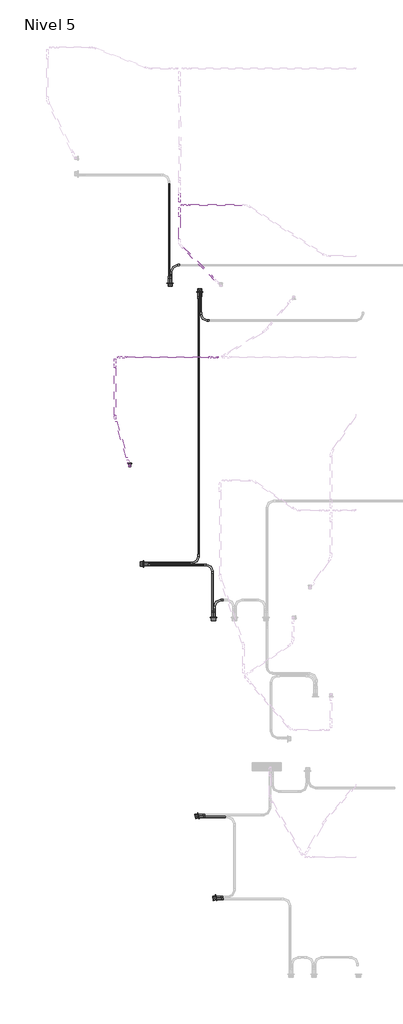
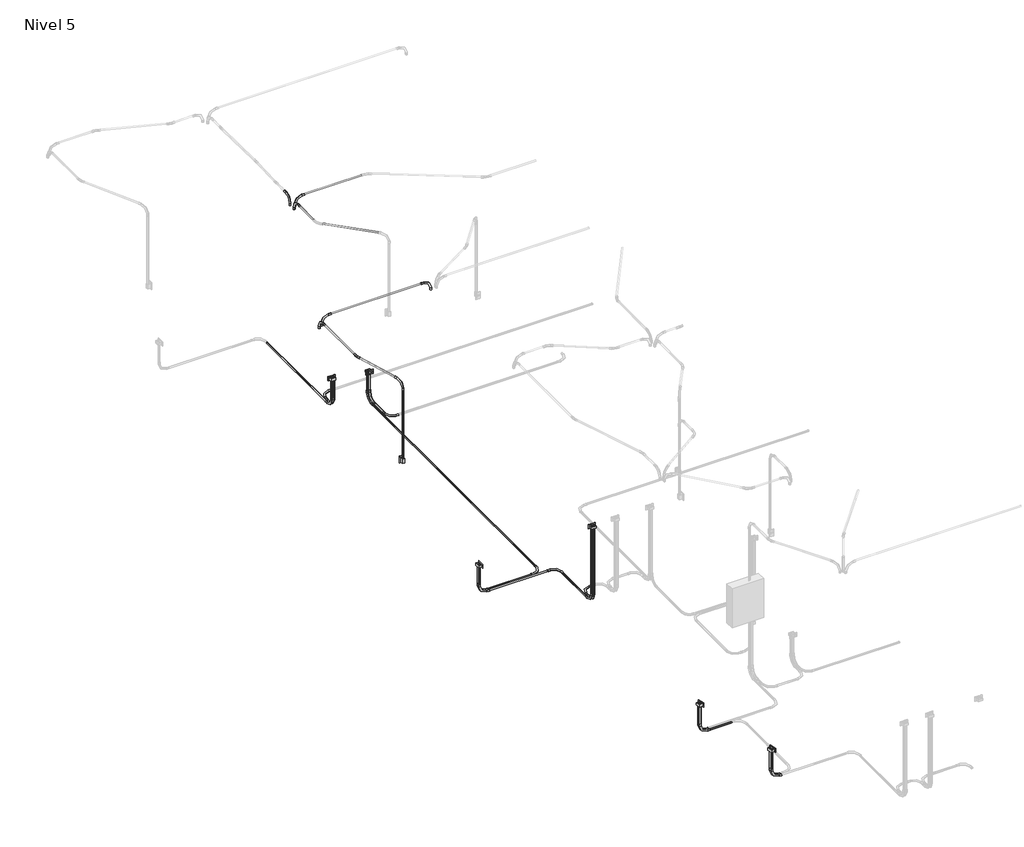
# One storey, part 1 of 9: 28 cable carrier segments, 25 cable carrier fittings, 6 proxies, 1 switching device.
"""IFC4 building model written with IfcOpenShell, lengths in millimetres."""

from ifc_helpers import new_model, si_unit, point, frame, frame_2d, origin, place, context, project, spatial, circle_curve, trimmed, segment, composite_curve, outline, extrude, transform, mapped, element, save
from components import gfci_180f1b41, m_codo_de_tubo_extremo_liso_pvc_9da73e12, m_codo_de_tubo_extremo_liso_pvc_102f0f41, m_codo_de_tubo_extremo_liso_pvc_c827fe26, switching_device_22fed34b

model = new_model("IFC4")

# Units and contexts
model_context = context("Model", 3, world=origin())
ifc_project = project(units=[si_unit("LENGTHUNIT", "METRE", prefix="MILLI")], contexts=[model_context])

# Site, building, storey
site = spatial("IfcSite", under=ifc_project)
building = spatial("IfcBuilding", under=site)
storey = spatial("IfcBuildingStorey", under=building, Name="Nivel 5", Elevation=10750.0)

# Proxies
placement = place(None, origin())
gfci_shape = gfci_180f1b41(model_context)
element("IfcBuildingElementProxy", 1, Name="Tomacorriente doble 220V : GFCI", ObjectType="Tomacorriente doble 220V : GFCI", at=placement, inside=storey, context=model_context, shape_type="MappedRepresentation", body=[
    mapped(gfci_shape, transform((-882.2626057, 12365.0, 11150.0), x_axis=(0.0, 0.0, 1.0), y_axis=(1.0, 0.0, 0.0), z_axis=(0.0, 1.0, 0.0))),
])
element("IfcBuildingElementProxy", 2, Name="Tomacorriente doble 220V : GFCI", ObjectType="Tomacorriente doble 220V : GFCI", at=placement, inside=storey, context=model_context, shape_type="MappedRepresentation", body=[
    mapped(gfci_shape, transform((-358.9597356, 12215.0, 11150.0), x_axis=(0.0, 0.0, 1.0), y_axis=(-1.0, 0.0, 0.0), z_axis=(0.0, -1.0, 0.0))),
])
element("IfcBuildingElementProxy", 3, Name="Tomacorriente doble 220V : GFCI", ObjectType="Tomacorriente doble 220V : GFCI", at=placement, inside=storey, context=model_context, shape_type="MappedRepresentation", body=[
    mapped(gfci_shape, transform((-1355.0, 7398.3941945, 11150.0), x_axis=(0.0, 0.0, 1.0), y_axis=(0.0, -1.0, 0.0), z_axis=(1.0, 0.0, 0.0))),
])
element("IfcBuildingElementProxy", 4, Name="Tomacorriente doble 220V : GFCI", ObjectType="Tomacorriente doble 220V : GFCI", at=placement, inside=storey, context=model_context, shape_type="MappedRepresentation", body=[
    mapped(gfci_shape, transform((-114.5718568, 6450.3626818, 11950.0), x_axis=(0.0, 0.0, 1.0), y_axis=(1.0, 0.0, 0.0), z_axis=(0.0, 1.0, 0.0))),
])
element("IfcBuildingElementProxy", 5, Name="Tomacorriente doble 220V : GFCI", ObjectType="Tomacorriente doble 220V : GFCI", at=placement, inside=storey, context=model_context, shape_type="MappedRepresentation", body=[
    mapped(gfci_shape, transform((-386.8496244, 2942.5012189, 11150.0), x_axis=(0.0, 0.0, 1.0), y_axis=(0.21188408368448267, -0.9772948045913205, 0.0), z_axis=(0.9772948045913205, 0.21188408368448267, 0.0))),
])
element("IfcBuildingElementProxy", 6, Name="Tomacorriente doble 220V : GFCI", ObjectType="Tomacorriente doble 220V : GFCI", at=placement, inside=storey, context=model_context, shape_type="MappedRepresentation", body=[
    mapped(gfci_shape, transform((-72.1793808, 1491.1152116, 11150.0), x_axis=(0.0, 0.0, 1.0), y_axis=(0.21188408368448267, -0.9772948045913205, 0.0), z_axis=(0.9772948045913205, 0.21188408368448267, 0.0))),
])

# Cable carrier fittings
m_codo_de_tubo_extremo_liso_pvc_shape = m_codo_de_tubo_extremo_liso_pvc_9da73e12(model_context)
element("IfcCableCarrierFitting", 7, ObjectType="M_Codo de tubo - Extremo liso - PVC : CODO POTENCIA", at=placement, inside=storey, context=model_context, shape_type="MappedRepresentation", body=[
    mapped(m_codo_de_tubo_extremo_liso_pvc_shape, transform((-900.2944255, 12335.3628882, 10680.0), x_axis=(0.0, 0.0, -1.0), y_axis=(0.0, 1.0, 0.0), z_axis=(1.0, 0.0, 0.0))),
])
element("IfcCableCarrierFitting", 8, ObjectType="M_Codo de tubo - Extremo liso - PVC : CODO POTENCIA", at=placement, inside=storey, context=model_context, shape_type="MappedRepresentation", body=[
    mapped(m_codo_de_tubo_extremo_liso_pvc_shape, transform((-864.2307859, 12686.2303985, 10680.0), x_axis=(-1.0, 0.0, 0.0), y_axis=(0.0, -1.0, 0.0), z_axis=(0.0, 0.0, 1.0))),
])
element("IfcCableCarrierFitting", 9, ObjectType="M_Codo de tubo - Extremo liso - PVC : CODO POTENCIA", at=placement, inside=storey, context=model_context, shape_type="MappedRepresentation", body=[
    mapped(m_codo_de_tubo_extremo_liso_pvc_shape, transform((-864.2307859, 12335.3628882, 10680.0), x_axis=(0.0, 0.0, -1.0), y_axis=(0.0, 1.0, 0.0), z_axis=(1.0, 0.0, 0.0))),
])
element("IfcCableCarrierFitting", 10, ObjectType="M_Codo de tubo - Extremo liso - PVC : CODO POTENCIA", at=placement, inside=storey, context=model_context, shape_type="MappedRepresentation", body=[
    mapped(m_codo_de_tubo_extremo_liso_pvc_shape, transform((-340.9279158, 12244.6371118, 10680.0), x_axis=(0.0, 0.0, -1.0), y_axis=(0.0, -1.0, 0.0), z_axis=(-1.0, 0.0, 0.0))),
])
element("IfcCableCarrierFitting", 11, ObjectType="M_Codo de tubo - Extremo liso - PVC : CODO POTENCIA", at=placement, inside=storey, context=model_context, shape_type="MappedRepresentation", body=[
    mapped(m_codo_de_tubo_extremo_liso_pvc_shape, transform((-1384.6371118, 7380.3623747, 10680.0), x_axis=(0.0, 0.0, -1.0), y_axis=(1.0, 0.0, 0.0), z_axis=(0.0, -1.0, 0.0))),
])
element("IfcCableCarrierFitting", 12, ObjectType="M_Codo de tubo - Extremo liso - PVC : CODO POTENCIA", at=placement, inside=storey, context=model_context, shape_type="MappedRepresentation", body=[
    mapped(m_codo_de_tubo_extremo_liso_pvc_shape, transform((-96.540037, 6420.72557, 10680.0), x_axis=(0.0, 0.0, -1.0), y_axis=(0.0, 1.0, 0.0), z_axis=(1.0, 0.0, 0.0))),
])
element("IfcCableCarrierFitting", 13, ObjectType="M_Codo de tubo - Extremo liso - PVC : CODO POTENCIA", at=placement, inside=storey, context=model_context, shape_type="MappedRepresentation", body=[
    mapped(m_codo_de_tubo_extremo_liso_pvc_shape, transform((-340.9279158, 11704.6371118, 10680.0), x_axis=(0.0, -1.0, 0.0), y_axis=(1.0, 0.0, 0.0), z_axis=(0.0, 0.0, 1.0))),
])
element("IfcCableCarrierFitting", 14, ObjectType="M_Codo de tubo - Extremo liso - PVC : CODO POTENCIA", at=placement, inside=storey, context=model_context, shape_type="MappedRepresentation", body=[
    mapped(m_codo_de_tubo_extremo_liso_pvc_shape, transform((-376.9915554, 12244.6371118, 10680.0), x_axis=(0.0, 0.0, -1.0), y_axis=(0.0, -1.0, 0.0), z_axis=(-1.0, 0.0, 0.0))),
])
element("IfcCableCarrierFitting", 15, ObjectType="M_Codo de tubo - Extremo liso - PVC : CODO POTENCIA", at=placement, inside=storey, context=model_context, shape_type="MappedRepresentation", body=[
    mapped(m_codo_de_tubo_extremo_liso_pvc_shape, transform((-376.9915554, 7416.4260143, 10680.0), x_axis=(1.0, 0.0, 0.0), y_axis=(0.0, 1.0, 0.0), z_axis=(0.0, 0.0, 1.0))),
])
element("IfcCableCarrierFitting", 16, ObjectType="M_Codo de tubo - Extremo liso - PVC : CODO POTENCIA", at=placement, inside=storey, context=model_context, shape_type="MappedRepresentation", body=[
    mapped(m_codo_de_tubo_extremo_liso_pvc_shape, transform((-1384.6371118, 7416.4260143, 10680.0), x_axis=(0.0, 0.0, -1.0), y_axis=(1.0, 0.0, 0.0), z_axis=(0.0, -1.0, 0.0))),
])
element("IfcCableCarrierFitting", 17, ObjectType="M_Codo de tubo - Extremo liso - PVC : CODO POTENCIA", at=placement, inside=storey, context=model_context, shape_type="MappedRepresentation", body=[
    mapped(m_codo_de_tubo_extremo_liso_pvc_shape, transform((-132.6036766, 7380.3623747, 10680.0), x_axis=(0.0, 1.0, 0.0), y_axis=(-1.0, 0.0, 0.0), z_axis=(0.0, 0.0, 1.0))),
])
element("IfcCableCarrierFitting", 18, ObjectType="M_Codo de tubo - Extremo liso - PVC : CODO POTENCIA", at=placement, inside=storey, context=model_context, shape_type="MappedRepresentation", body=[
    mapped(m_codo_de_tubo_extremo_liso_pvc_shape, transform((-132.6036766, 6420.72557, 10680.0), x_axis=(0.0, 0.0, -1.0), y_axis=(0.0, 1.0, 0.0), z_axis=(1.0, 0.0, 0.0))),
])
element("IfcCableCarrierFitting", 19, ObjectType="M_Codo de tubo - Extremo liso - PVC : CODO POTENCIA", at=placement, inside=storey, context=model_context, shape_type="MappedRepresentation", body=[
    mapped(m_codo_de_tubo_extremo_liso_pvc_shape, transform((-96.540037, 6760.6953232, 10680.0), x_axis=(-1.0, 0.0, 0.0), y_axis=(0.0, -1.0, 0.0), z_axis=(0.0, 0.0, 1.0))),
])
element("IfcCableCarrierFitting", 20, ObjectType="M_Codo de tubo - Extremo liso - PVC : CODO POTENCIA", at=placement, inside=storey, context=model_context, shape_type="MappedRepresentation", body=[
    mapped(m_codo_de_tubo_extremo_liso_pvc_shape, transform((-411.9931642, 2918.5991828, 10680.0), x_axis=(0.0, 0.0, -1.0), y_axis=(1.0, 0.0, 0.0), z_axis=(0.0, -1.0, 0.0))),
])
element("IfcCableCarrierFitting", 21, ObjectType="M_Codo de tubo - Extremo liso - PVC : CODO POTENCIA", at=placement, inside=storey, context=model_context, shape_type="MappedRepresentation", body=[
    mapped(m_codo_de_tubo_extremo_liso_pvc_shape, transform((-419.6344754, 2953.8439904, 10680.0), x_axis=(0.0, 0.0, -1.0), y_axis=(1.0, 0.0, 0.0), z_axis=(0.0, -1.0, 0.0))),
])
element("IfcCableCarrierFitting", 22, ObjectType="M_Codo de tubo - Extremo liso - PVC : CODO POTENCIA", at=placement, inside=storey, context=model_context, shape_type="MappedRepresentation", body=[
    mapped(m_codo_de_tubo_extremo_liso_pvc_shape, transform((-104.9642318, 1502.4579832, 10680.0), x_axis=(0.0, 0.0, -1.0), y_axis=(1.0, 0.0, 0.0), z_axis=(0.0, -1.0, 0.0))),
])
element("IfcCableCarrierFitting", 23, ObjectType="M_Codo de tubo - Extremo liso - PVC : CODO POTENCIA", at=placement, inside=storey, context=model_context, shape_type="MappedRepresentation", body=[
    mapped(m_codo_de_tubo_extremo_liso_pvc_shape, transform((-97.3229206, 1467.2131755, 10680.0), x_axis=(0.0, 0.0, -1.0), y_axis=(1.0, 0.0, 0.0), z_axis=(0.0, -1.0, 0.0))),
])
element("IfcCableCarrierFitting", 24, ObjectType="M_Codo de tubo - Extremo liso - PVC : CODO ILUMINACION", at=placement, inside=storey, context=model_context, shape_type="MappedRepresentation", body=[
    mapped(m_codo_de_tubo_extremo_liso_pvc_shape, transform((-675.4306282, 13749.9859322, 13300.0), x_axis=(-1.0, 0.0, 0.0), y_axis=(0.0, 0.0, -1.0), z_axis=(0.0, -1.0, 0.0))),
])
element("IfcCableCarrierFitting", 25, ObjectType="M_Codo de tubo - Extremo liso - PVC : CODO ILUMINACION", at=placement, inside=storey, context=model_context, shape_type="MappedRepresentation", body=[
    mapped(m_codo_de_tubo_extremo_liso_pvc_shape, transform((-1801.7395897, 11056.6360423, 13300.0), x_axis=(-1.0, 0.0, 0.0), y_axis=(0.0, 0.0, -1.0), z_axis=(0.0, -1.0, 0.0))),
])
element("IfcCableCarrierFitting", 26, ObjectType="M_Codo de tubo - Extremo liso - PVC : CODO ILUMINACION", at=placement, inside=storey, context=model_context, shape_type="MappedRepresentation", body=[
    mapped(m_codo_de_tubo_extremo_liso_pvc_shape, transform((-715.4231993, 13696.3245372, 13300.0), x_axis=(0.00939019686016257, 0.9999559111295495, 0.0), y_axis=(0.0, 0.0, -1.0000000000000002), z_axis=(-0.9999559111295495, 0.00939019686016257, 0.0))),
])
element("IfcCableCarrierFitting", 27, ObjectType="M_Codo de tubo - Extremo liso - PVC : CODO ILUMINACION", at=placement, inside=storey, context=model_context, shape_type="MappedRepresentation", body=[
    mapped(m_codo_de_tubo_extremo_liso_pvc_shape, transform((-1600.4284966, 9132.5817973, 13300.0), x_axis=(0.0, 0.0, 1.0), y_axis=(-0.29237170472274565, 0.9563047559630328, 0.0), z_axis=(-0.9563047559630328, -0.29237170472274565, 0.0))),
])
m_codo_de_tubo_extremo_liso_pvc_2_shape = m_codo_de_tubo_extremo_liso_pvc_102f0f41(model_context)
element("IfcCableCarrierFitting", 28, ObjectType="M_Codo de tubo - Extremo liso - PVC : CODO ILUMINACION", at=placement, inside=storey, context=model_context, shape_type="MappedRepresentation", body=[
    mapped(m_codo_de_tubo_extremo_liso_pvc_2_shape, transform((-43.6522685, 11056.6360423, 13300.0), x_axis=(1.0, 0.0, 0.0), y_axis=(0.0, 0.0, 1.0), z_axis=(0.0, -1.0, 0.0))),
])
element("IfcCableCarrierFitting", 29, ObjectType="M_Codo de tubo - Extremo liso - PVC : CODO ILUMINACION", at=placement, inside=storey, context=model_context, shape_type="MappedRepresentation", body=[
    mapped(m_codo_de_tubo_extremo_liso_pvc_2_shape, transform((-715.4231993, 13809.6454898, 13300.0), x_axis=(0.00939019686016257, -0.9999559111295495, 0.0), y_axis=(0.0, 0.0, 1.0000000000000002), z_axis=(-0.9999559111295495, -0.00939019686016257, 0.0))),
])
element("IfcCableCarrierFitting", 30, ObjectType="M_Codo de tubo - Extremo liso - PVC : CODO ILUMINACION", at=placement, inside=storey, context=model_context, shape_type="MappedRepresentation", body=[
    mapped(m_codo_de_tubo_extremo_liso_pvc_2_shape, transform((-1858.803104, 11020.5471377, 13300.0), x_axis=(0.0, 1.0, 0.0), y_axis=(0.0, 0.0, 1.0), z_axis=(1.0, 0.0, 0.0))),
])
m_codo_de_tubo_extremo_liso_pvc_3_shape = m_codo_de_tubo_extremo_liso_pvc_c827fe26(model_context)
element("IfcCableCarrierFitting", 31, ObjectType="M_Codo de tubo - Extremo liso - PVC : CODO ILUMINACION", at=placement, inside=storey, context=model_context, shape_type="MappedRepresentation", body=[
    mapped(m_codo_de_tubo_extremo_liso_pvc_3_shape, transform((-1858.803104, 9977.6870586, 13300.0), x_axis=(0.0, -1.0, 0.0), y_axis=(1.0, 0.0, 0.0), z_axis=(0.0, 0.0, 1.0))),
])

# Cable carrier segments
element("IfcCableCarrierSegment", 32, ObjectType="PVC-SEL, POTENCIA", at=placement, inside=storey, context=model_context, shape_type="SweptSolid", body=[
    extrude(outline(composite_curve([segment(trimmed(circle_curve(frame_2d((10680.0, -864.2307859)), 11.71), [point((10680.0, -875.9407859))], [point((10668.29, -864.2307859))], False, "CARTESIAN"), True, "CONTINUOUS"), segment(trimmed(circle_curve(frame_2d((10680.0, -864.2307859)), 11.71), [point((10668.29, -864.2307859))], [point((10680.0, -852.5207859))], False, "CARTESIAN"), True, "CONTINUOUS"), segment(trimmed(circle_curve(frame_2d((10680.0, -864.2307859)), 11.71), [point((10680.0, -852.5207859))], [point((10691.71, -864.2307859))], False, "CARTESIAN"), True, "CONTINUOUS"), segment(trimmed(circle_curve(frame_2d((10680.0, -864.2307859)), 11.71), [point((10691.71, -864.2307859))], [point((10680.0, -875.9407859))], False, "CARTESIAN"), True, "CONTINUOUS")], self_intersect=False)), frame((0.0, 12487.7628882, 0.0), z_axis=(0.0, 1.0, 0.0), x_axis=(0.0, 0.0, 1.0)), (0.0, 0.0, 1.0), 46.0675103),
])
element("IfcCableCarrierSegment", 33, ObjectType="PVC-SEL, POTENCIA", at=placement, inside=storey, context=model_context, shape_type="SweptSolid", body=[
    extrude(outline(composite_curve([segment(trimmed(circle_curve(frame_2d((-864.2307859, 12335.3628882)), 11.71), [point((-852.5207859, 12335.3628882))], [point((-864.2307859, 12323.6528882))], False, "CARTESIAN"), True, "CONTINUOUS"), segment(trimmed(circle_curve(frame_2d((-864.2307859, 12335.3628882)), 11.71), [point((-864.2307859, 12323.6528882))], [point((-875.9407859, 12335.3628882))], False, "CARTESIAN"), True, "CONTINUOUS"), segment(trimmed(circle_curve(frame_2d((-864.2307859, 12335.3628882)), 11.71), [point((-875.9407859, 12335.3628882))], [point((-864.2307859, 12347.0728882))], False, "CARTESIAN"), True, "CONTINUOUS"), segment(trimmed(circle_curve(frame_2d((-864.2307859, 12335.3628882)), 11.71), [point((-864.2307859, 12347.0728882))], [point((-852.5207859, 12335.3628882))], False, "CARTESIAN"), True, "CONTINUOUS")], self_intersect=False)), frame((0.0, 0.0, 10832.4), z_axis=(0.0, 0.0, 1.0), x_axis=(1.0, 0.0, 0.0)), (0.0, 0.0, 1.0), 297.3020537),
])
element("IfcCableCarrierSegment", 34, ObjectType="PVC-SEL, POTENCIA", at=placement, inside=storey, context=model_context, shape_type="SweptSolid", body=[
    extrude(outline(composite_curve([segment(trimmed(circle_curve(frame_2d((10680.0, -900.2944255)), 11.71), [point((10680.0, -888.5844255))], [point((10691.71, -900.2944255))], False, "CARTESIAN"), True, "CONTINUOUS"), segment(trimmed(circle_curve(frame_2d((10680.0, -900.2944255)), 11.71), [point((10691.71, -900.2944255))], [point((10680.0, -912.0044255))], False, "CARTESIAN"), True, "CONTINUOUS"), segment(trimmed(circle_curve(frame_2d((10680.0, -900.2944255)), 11.71), [point((10680.0, -912.0044255))], [point((10668.29, -900.2944255))], False, "CARTESIAN"), True, "CONTINUOUS"), segment(trimmed(circle_curve(frame_2d((10680.0, -900.2944255)), 11.71), [point((10668.29, -900.2944255))], [point((10680.0, -888.5844255))], False, "CARTESIAN"), True, "CONTINUOUS")], self_intersect=False)), frame((0.0, 12487.7628882, 0.0), z_axis=(0.0, 1.0, 0.0), x_axis=(0.0, 0.0, 1.0)), (0.0, 0.0, 1.0), 1644.7620925),
])
element("IfcCableCarrierSegment", 35, ObjectType="PVC-SEL, POTENCIA", at=placement, inside=storey, context=model_context, shape_type="SweptSolid", body=[
    extrude(outline(composite_curve([segment(trimmed(circle_curve(frame_2d((-900.2944255, 12335.3628882)), 11.71), [point((-888.5844255, 12335.3628882))], [point((-900.2944255, 12323.6528882))], False, "CARTESIAN"), True, "CONTINUOUS"), segment(trimmed(circle_curve(frame_2d((-900.2944255, 12335.3628882)), 11.71), [point((-900.2944255, 12323.6528882))], [point((-912.0044255, 12335.3628882))], False, "CARTESIAN"), True, "CONTINUOUS"), segment(trimmed(circle_curve(frame_2d((-900.2944255, 12335.3628882)), 11.71), [point((-912.0044255, 12335.3628882))], [point((-900.2944255, 12347.0728882))], False, "CARTESIAN"), True, "CONTINUOUS"), segment(trimmed(circle_curve(frame_2d((-900.2944255, 12335.3628882)), 11.71), [point((-900.2944255, 12347.0728882))], [point((-888.5844255, 12335.3628882))], False, "CARTESIAN"), True, "CONTINUOUS")], self_intersect=False)), frame((0.0, 0.0, 10832.4), z_axis=(0.0, 0.0, 1.0), x_axis=(1.0, 0.0, 0.0)), (0.0, 0.0, 1.0), 297.3020537),
])
element("IfcCableCarrierSegment", 36, ObjectType="PVC-SEL, POTENCIA", at=placement, inside=storey, context=model_context, shape_type="SweptSolid", body=[
    extrude(outline(composite_curve([segment(trimmed(circle_curve(frame_2d((10680.0, -340.9279158)), 11.71), [point((10680.0, -352.6379158))], [point((10668.29, -340.9279158))], False, "CARTESIAN"), True, "CONTINUOUS"), segment(trimmed(circle_curve(frame_2d((10680.0, -340.9279158)), 11.71), [point((10668.29, -340.9279158))], [point((10680.0, -329.2179158))], False, "CARTESIAN"), True, "CONTINUOUS"), segment(trimmed(circle_curve(frame_2d((10680.0, -340.9279158)), 11.71), [point((10680.0, -329.2179158))], [point((10691.71, -340.9279158))], False, "CARTESIAN"), True, "CONTINUOUS"), segment(trimmed(circle_curve(frame_2d((10680.0, -340.9279158)), 11.71), [point((10691.71, -340.9279158))], [point((10680.0, -352.6379158))], False, "CARTESIAN"), True, "CONTINUOUS")], self_intersect=False)), frame((0.0, 11857.0371118, 0.0), z_axis=(0.0, 1.0, 0.0), x_axis=(0.0, 0.0, 1.0)), (0.0, 0.0, 1.0), 235.2),
])
element("IfcCableCarrierSegment", 37, ObjectType="PVC-SEL, POTENCIA", at=placement, inside=storey, context=model_context, shape_type="SweptSolid", body=[
    extrude(outline(composite_curve([segment(trimmed(circle_curve(frame_2d((-340.9279158, 12244.6371118)), 11.71), [point((-329.2179158, 12244.6371118))], [point((-340.9279158, 12232.9271118))], False, "CARTESIAN"), True, "CONTINUOUS"), segment(trimmed(circle_curve(frame_2d((-340.9279158, 12244.6371118)), 11.71), [point((-340.9279158, 12232.9271118))], [point((-352.6379158, 12244.6371118))], False, "CARTESIAN"), True, "CONTINUOUS"), segment(trimmed(circle_curve(frame_2d((-340.9279158, 12244.6371118)), 11.71), [point((-352.6379158, 12244.6371118))], [point((-340.9279158, 12256.3471118))], False, "CARTESIAN"), True, "CONTINUOUS"), segment(trimmed(circle_curve(frame_2d((-340.9279158, 12244.6371118)), 11.71), [point((-340.9279158, 12256.3471118))], [point((-329.2179158, 12244.6371118))], False, "CARTESIAN"), True, "CONTINUOUS")], self_intersect=False)), frame((0.0, 0.0, 10832.4), z_axis=(0.0, 0.0, 1.0), x_axis=(1.0, 0.0, 0.0)), (0.0, 0.0, 1.0), 297.3020537),
])
element("IfcCableCarrierSegment", 38, ObjectType="PVC-SEL, POTENCIA", at=placement, inside=storey, context=model_context, shape_type="SweptSolid", body=[
    extrude(outline(composite_curve([segment(trimmed(circle_curve(frame_2d((7380.3623747, 10680.0)), 11.71), [point((7368.6523747, 10680.0))], [point((7380.3623747, 10691.71))], False, "CARTESIAN"), True, "CONTINUOUS"), segment(trimmed(circle_curve(frame_2d((7380.3623747, 10680.0)), 11.71), [point((7380.3623747, 10691.71))], [point((7392.0723747, 10680.0))], False, "CARTESIAN"), True, "CONTINUOUS"), segment(trimmed(circle_curve(frame_2d((7380.3623747, 10680.0)), 11.71), [point((7392.0723747, 10680.0))], [point((7380.3623747, 10668.29))], False, "CARTESIAN"), True, "CONTINUOUS"), segment(trimmed(circle_curve(frame_2d((7380.3623747, 10680.0)), 11.71), [point((7380.3623747, 10668.29))], [point((7368.6523747, 10680.0))], False, "CARTESIAN"), True, "CONTINUOUS")], self_intersect=False)), frame((-1232.2371118, 0.0, 0.0), z_axis=(1.0, 0.0, 0.0), x_axis=(0.0, 1.0, 0.0)), (0.0, 0.0, 1.0), 947.2334351),
])
element("IfcCableCarrierSegment", 39, ObjectType="PVC-SEL, POTENCIA", at=placement, inside=storey, context=model_context, shape_type="SweptSolid", body=[
    extrude(outline(composite_curve([segment(trimmed(circle_curve(frame_2d((-1384.6371118, 7380.3623747)), 11.71), [point((-1372.9271118, 7380.3623747))], [point((-1384.6371118, 7368.6523747))], False, "CARTESIAN"), True, "CONTINUOUS"), segment(trimmed(circle_curve(frame_2d((-1384.6371118, 7380.3623747)), 11.71), [point((-1384.6371118, 7368.6523747))], [point((-1396.3471118, 7380.3623747))], False, "CARTESIAN"), True, "CONTINUOUS"), segment(trimmed(circle_curve(frame_2d((-1384.6371118, 7380.3623747)), 11.71), [point((-1396.3471118, 7380.3623747))], [point((-1384.6371118, 7392.0723747))], False, "CARTESIAN"), True, "CONTINUOUS"), segment(trimmed(circle_curve(frame_2d((-1384.6371118, 7380.3623747)), 11.71), [point((-1384.6371118, 7392.0723747))], [point((-1372.9271118, 7380.3623747))], False, "CARTESIAN"), True, "CONTINUOUS")], self_intersect=False)), frame((0.0, 0.0, 10832.4), z_axis=(0.0, 0.0, 1.0), x_axis=(1.0, 0.0, 0.0)), (0.0, 0.0, 1.0), 297.3020537),
])
element("IfcCableCarrierSegment", 40, ObjectType="PVC-SEL, POTENCIA", at=placement, inside=storey, context=model_context, shape_type="SweptSolid", body=[
    extrude(outline(composite_curve([segment(trimmed(circle_curve(frame_2d((7416.4260143, 10680.0)), 11.71), [point((7428.1360143, 10680.0))], [point((7416.4260143, 10668.29))], False, "CARTESIAN"), True, "CONTINUOUS"), segment(trimmed(circle_curve(frame_2d((7416.4260143, 10680.0)), 11.71), [point((7416.4260143, 10668.29))], [point((7404.7160143, 10680.0))], False, "CARTESIAN"), True, "CONTINUOUS"), segment(trimmed(circle_curve(frame_2d((7416.4260143, 10680.0)), 11.71), [point((7404.7160143, 10680.0))], [point((7416.4260143, 10691.71))], False, "CARTESIAN"), True, "CONTINUOUS"), segment(trimmed(circle_curve(frame_2d((7416.4260143, 10680.0)), 11.71), [point((7416.4260143, 10691.71))], [point((7428.1360143, 10680.0))], False, "CARTESIAN"), True, "CONTINUOUS")], self_intersect=False)), frame((-1232.2371118, 0.0, 0.0), z_axis=(1.0, 0.0, 0.0), x_axis=(0.0, 1.0, 0.0)), (0.0, 0.0, 1.0), 702.8455564),
])
element("IfcCableCarrierSegment", 41, ObjectType="PVC-SEL, POTENCIA", at=placement, inside=storey, context=model_context, shape_type="SweptSolid", body=[
    extrude(outline(composite_curve([segment(trimmed(circle_curve(frame_2d((-1384.6371118, 7416.4260143)), 11.71), [point((-1372.9271118, 7416.4260143))], [point((-1384.6371118, 7404.7160143))], False, "CARTESIAN"), True, "CONTINUOUS"), segment(trimmed(circle_curve(frame_2d((-1384.6371118, 7416.4260143)), 11.71), [point((-1384.6371118, 7404.7160143))], [point((-1396.3471118, 7416.4260143))], False, "CARTESIAN"), True, "CONTINUOUS"), segment(trimmed(circle_curve(frame_2d((-1384.6371118, 7416.4260143)), 11.71), [point((-1396.3471118, 7416.4260143))], [point((-1384.6371118, 7428.1360143))], False, "CARTESIAN"), True, "CONTINUOUS"), segment(trimmed(circle_curve(frame_2d((-1384.6371118, 7416.4260143)), 11.71), [point((-1384.6371118, 7428.1360143))], [point((-1372.9271118, 7416.4260143))], False, "CARTESIAN"), True, "CONTINUOUS")], self_intersect=False)), frame((0.0, 0.0, 10832.4), z_axis=(0.0, 0.0, 1.0), x_axis=(1.0, 0.0, 0.0)), (0.0, 0.0, 1.0), 297.3020537),
])
element("IfcCableCarrierSegment", 42, ObjectType="PVC-SEL, POTENCIA", at=placement, inside=storey, context=model_context, shape_type="SweptSolid", body=[
    extrude(outline(composite_curve([segment(trimmed(circle_curve(frame_2d((10680.0, -132.6036766)), 11.71), [point((10680.0, -144.3136766))], [point((10668.29, -132.6036766))], False, "CARTESIAN"), True, "CONTINUOUS"), segment(trimmed(circle_curve(frame_2d((10680.0, -132.6036766)), 11.71), [point((10668.29, -132.6036766))], [point((10680.0, -120.8936766))], False, "CARTESIAN"), True, "CONTINUOUS"), segment(trimmed(circle_curve(frame_2d((10680.0, -132.6036766)), 11.71), [point((10680.0, -120.8936766))], [point((10691.71, -132.6036766))], False, "CARTESIAN"), True, "CONTINUOUS"), segment(trimmed(circle_curve(frame_2d((10680.0, -132.6036766)), 11.71), [point((10691.71, -132.6036766))], [point((10680.0, -144.3136766))], False, "CARTESIAN"), True, "CONTINUOUS")], self_intersect=False)), frame((0.0, 6573.12557, 0.0), z_axis=(0.0, 1.0, 0.0), x_axis=(0.0, 0.0, 1.0)), (0.0, 0.0, 1.0), 654.8368047),
])
element("IfcCableCarrierSegment", 43, ObjectType="PVC-SEL, POTENCIA", at=placement, inside=storey, context=model_context, shape_type="SweptSolid", body=[
    extrude(outline(composite_curve([segment(trimmed(circle_curve(frame_2d((-132.6036766, 6420.72557)), 11.71), [point((-120.8936766, 6420.72557))], [point((-132.6036766, 6409.01557))], False, "CARTESIAN"), True, "CONTINUOUS"), segment(trimmed(circle_curve(frame_2d((-132.6036766, 6420.72557)), 11.71), [point((-132.6036766, 6409.01557))], [point((-144.3136766, 6420.72557))], False, "CARTESIAN"), True, "CONTINUOUS"), segment(trimmed(circle_curve(frame_2d((-132.6036766, 6420.72557)), 11.71), [point((-144.3136766, 6420.72557))], [point((-132.6036766, 6432.43557))], False, "CARTESIAN"), True, "CONTINUOUS"), segment(trimmed(circle_curve(frame_2d((-132.6036766, 6420.72557)), 11.71), [point((-132.6036766, 6432.43557))], [point((-120.8936766, 6420.72557))], False, "CARTESIAN"), True, "CONTINUOUS")], self_intersect=False)), frame((0.0, 0.0, 10832.4), z_axis=(0.0, 0.0, 1.0), x_axis=(1.0, 0.0, 0.0)), (0.0, 0.0, 1.0), 1097.3020537),
])
element("IfcCableCarrierSegment", 44, ObjectType="PVC-SEL, POTENCIA", at=placement, inside=storey, context=model_context, shape_type="SweptSolid", body=[
    extrude(outline(composite_curve([segment(trimmed(circle_curve(frame_2d((10680.0, -96.540037)), 11.71), [point((10680.0, -84.830037))], [point((10691.71, -96.540037))], False, "CARTESIAN"), True, "CONTINUOUS"), segment(trimmed(circle_curve(frame_2d((10680.0, -96.540037)), 11.71), [point((10691.71, -96.540037))], [point((10680.0, -108.250037))], False, "CARTESIAN"), True, "CONTINUOUS"), segment(trimmed(circle_curve(frame_2d((10680.0, -96.540037)), 11.71), [point((10680.0, -108.250037))], [point((10668.29, -96.540037))], False, "CARTESIAN"), True, "CONTINUOUS"), segment(trimmed(circle_curve(frame_2d((10680.0, -96.540037)), 11.71), [point((10668.29, -96.540037))], [point((10680.0, -84.830037))], False, "CARTESIAN"), True, "CONTINUOUS")], self_intersect=False)), frame((0.0, 6573.12557, 0.0), z_axis=(0.0, 1.0, 0.0), x_axis=(0.0, 0.0, 1.0)), (0.0, 0.0, 1.0), 35.1697532),
])
element("IfcCableCarrierSegment", 45, ObjectType="PVC-SEL, POTENCIA", at=placement, inside=storey, context=model_context, shape_type="SweptSolid", body=[
    extrude(outline(composite_curve([segment(trimmed(circle_curve(frame_2d((-96.540037, 6420.72557)), 11.71), [point((-84.830037, 6420.72557))], [point((-96.540037, 6409.01557))], False, "CARTESIAN"), True, "CONTINUOUS"), segment(trimmed(circle_curve(frame_2d((-96.540037, 6420.72557)), 11.71), [point((-96.540037, 6409.01557))], [point((-108.250037, 6420.72557))], False, "CARTESIAN"), True, "CONTINUOUS"), segment(trimmed(circle_curve(frame_2d((-96.540037, 6420.72557)), 11.71), [point((-108.250037, 6420.72557))], [point((-96.540037, 6432.43557))], False, "CARTESIAN"), True, "CONTINUOUS"), segment(trimmed(circle_curve(frame_2d((-96.540037, 6420.72557)), 11.71), [point((-96.540037, 6432.43557))], [point((-84.830037, 6420.72557))], False, "CARTESIAN"), True, "CONTINUOUS")], self_intersect=False)), frame((0.0, 0.0, 10832.4), z_axis=(0.0, 0.0, 1.0), x_axis=(1.0, 0.0, 0.0)), (0.0, 0.0, 1.0), 1097.3020537),
])
element("IfcCableCarrierSegment", 46, ObjectType="PVC-SEL, POTENCIA", at=placement, inside=storey, context=model_context, shape_type="SweptSolid", body=[
    extrude(outline(composite_curve([segment(trimmed(circle_curve(frame_2d((10680.0, -376.9915554)), 11.71), [point((10680.0, -388.7015554))], [point((10668.29, -376.9915554))], False, "CARTESIAN"), True, "CONTINUOUS"), segment(trimmed(circle_curve(frame_2d((10680.0, -376.9915554)), 11.71), [point((10668.29, -376.9915554))], [point((10680.0, -365.2815554))], False, "CARTESIAN"), True, "CONTINUOUS"), segment(trimmed(circle_curve(frame_2d((10680.0, -376.9915554)), 11.71), [point((10680.0, -365.2815554))], [point((10691.71, -376.9915554))], False, "CARTESIAN"), True, "CONTINUOUS"), segment(trimmed(circle_curve(frame_2d((10680.0, -376.9915554)), 11.71), [point((10691.71, -376.9915554))], [point((10680.0, -388.7015554))], False, "CARTESIAN"), True, "CONTINUOUS")], self_intersect=False)), frame((0.0, 7568.8260143, 0.0), z_axis=(0.0, 1.0, 0.0), x_axis=(0.0, 0.0, 1.0)), (0.0, 0.0, 1.0), 4523.4110975),
])
element("IfcCableCarrierSegment", 47, ObjectType="PVC-SEL, POTENCIA", at=placement, inside=storey, context=model_context, shape_type="SweptSolid", body=[
    extrude(outline(composite_curve([segment(trimmed(circle_curve(frame_2d((-376.9915554, 12244.6371118)), 11.71), [point((-365.2815554, 12244.6371118))], [point((-376.9915554, 12232.9271118))], False, "CARTESIAN"), True, "CONTINUOUS"), segment(trimmed(circle_curve(frame_2d((-376.9915554, 12244.6371118)), 11.71), [point((-376.9915554, 12232.9271118))], [point((-388.7015554, 12244.6371118))], False, "CARTESIAN"), True, "CONTINUOUS"), segment(trimmed(circle_curve(frame_2d((-376.9915554, 12244.6371118)), 11.71), [point((-388.7015554, 12244.6371118))], [point((-376.9915554, 12256.3471118))], False, "CARTESIAN"), True, "CONTINUOUS"), segment(trimmed(circle_curve(frame_2d((-376.9915554, 12244.6371118)), 11.71), [point((-376.9915554, 12256.3471118))], [point((-365.2815554, 12244.6371118))], False, "CARTESIAN"), True, "CONTINUOUS")], self_intersect=False)), frame((0.0, 0.0, 10832.4), z_axis=(0.0, 0.0, 1.0), x_axis=(1.0, 0.0, 0.0)), (0.0, 0.0, 1.0), 297.3020537),
])
element("IfcCableCarrierSegment", 48, ObjectType="PVC-SEL, POTENCIA", at=placement, inside=storey, context=model_context, shape_type="SweptSolid", body=[
    extrude(outline(composite_curve([segment(trimmed(circle_curve(frame_2d((-97.3229206, 1467.2131755)), 11.71), [point((-85.6129206, 1467.2131755))], [point((-97.3229206, 1455.5031755))], False, "CARTESIAN"), True, "CONTINUOUS"), segment(trimmed(circle_curve(frame_2d((-97.3229206, 1467.2131755)), 11.71), [point((-97.3229206, 1455.5031755))], [point((-109.0329206, 1467.2131755))], False, "CARTESIAN"), True, "CONTINUOUS"), segment(trimmed(circle_curve(frame_2d((-97.3229206, 1467.2131755)), 11.71), [point((-109.0329206, 1467.2131755))], [point((-97.3229206, 1478.9231755))], False, "CARTESIAN"), True, "CONTINUOUS"), segment(trimmed(circle_curve(frame_2d((-97.3229206, 1467.2131755)), 11.71), [point((-97.3229206, 1478.9231755))], [point((-85.6129206, 1467.2131755))], False, "CARTESIAN"), True, "CONTINUOUS")], self_intersect=False)), frame((0.0, 0.0, 10832.4), z_axis=(0.0, 0.0, 1.0), x_axis=(1.0, 0.0, 0.0)), (0.0, 0.0, 1.0), 297.3020537),
])
element("IfcCableCarrierSegment", 49, ObjectType="PVC-SEL, POTENCIA", at=placement, inside=storey, context=model_context, shape_type="SweptSolid", body=[
    extrude(outline(composite_curve([segment(trimmed(circle_curve(frame_2d((-104.9642318, 1502.4579832)), 11.71), [point((-93.2542318, 1502.4579832))], [point((-104.9642318, 1490.7479832))], False, "CARTESIAN"), True, "CONTINUOUS"), segment(trimmed(circle_curve(frame_2d((-104.9642318, 1502.4579832)), 11.71), [point((-104.9642318, 1490.7479832))], [point((-116.6742318, 1502.4579832))], False, "CARTESIAN"), True, "CONTINUOUS"), segment(trimmed(circle_curve(frame_2d((-104.9642318, 1502.4579832)), 11.71), [point((-116.6742318, 1502.4579832))], [point((-104.9642318, 1514.1679832))], False, "CARTESIAN"), True, "CONTINUOUS"), segment(trimmed(circle_curve(frame_2d((-104.9642318, 1502.4579832)), 11.71), [point((-104.9642318, 1514.1679832))], [point((-93.2542318, 1502.4579832))], False, "CARTESIAN"), True, "CONTINUOUS")], self_intersect=False)), frame((0.0, 0.0, 10832.4), z_axis=(0.0, 0.0, 1.0), x_axis=(1.0, 0.0, 0.0)), (0.0, 0.0, 1.0), 297.3020537),
])
element("IfcCableCarrierSegment", 50, ObjectType="PVC-SEL, POTENCIA", at=placement, inside=storey, context=model_context, shape_type="SweptSolid", body=[
    extrude(outline(composite_curve([segment(trimmed(circle_curve(frame_2d((2918.5991828, 10680.0)), 11.71), [point((2906.8891828, 10680.0))], [point((2918.5991828, 10691.71))], False, "CARTESIAN"), True, "CONTINUOUS"), segment(trimmed(circle_curve(frame_2d((2918.5991828, 10680.0)), 11.71), [point((2918.5991828, 10691.71))], [point((2930.3091828, 10680.0))], False, "CARTESIAN"), True, "CONTINUOUS"), segment(trimmed(circle_curve(frame_2d((2918.5991828, 10680.0)), 11.71), [point((2930.3091828, 10680.0))], [point((2918.5991828, 10668.29))], False, "CARTESIAN"), True, "CONTINUOUS"), segment(trimmed(circle_curve(frame_2d((2918.5991828, 10680.0)), 11.71), [point((2918.5991828, 10668.29))], [point((2906.8891828, 10680.0))], False, "CARTESIAN"), True, "CONTINUOUS")], self_intersect=False)), frame((-259.5931642, 0.0, 0.0), z_axis=(1.0, 0.0, 0.0), x_axis=(0.0, 1.0, 0.0)), (0.0, 0.0, 1.0), 360.2),
])
element("IfcCableCarrierSegment", 51, ObjectType="PVC-SEL, POTENCIA", at=placement, inside=storey, context=model_context, shape_type="SweptSolid", body=[
    extrude(outline(composite_curve([segment(trimmed(circle_curve(frame_2d((-411.9931642, 2918.5991828)), 11.71), [point((-400.2831642, 2918.5991828))], [point((-411.9931642, 2906.8891828))], False, "CARTESIAN"), True, "CONTINUOUS"), segment(trimmed(circle_curve(frame_2d((-411.9931642, 2918.5991828)), 11.71), [point((-411.9931642, 2906.8891828))], [point((-423.7031642, 2918.5991828))], False, "CARTESIAN"), True, "CONTINUOUS"), segment(trimmed(circle_curve(frame_2d((-411.9931642, 2918.5991828)), 11.71), [point((-423.7031642, 2918.5991828))], [point((-411.9931642, 2930.3091828))], False, "CARTESIAN"), True, "CONTINUOUS"), segment(trimmed(circle_curve(frame_2d((-411.9931642, 2918.5991828)), 11.71), [point((-411.9931642, 2930.3091828))], [point((-400.2831642, 2918.5991828))], False, "CARTESIAN"), True, "CONTINUOUS")], self_intersect=False)), frame((0.0, 0.0, 10832.4), z_axis=(0.0, 0.0, 1.0), x_axis=(1.0, 0.0, 0.0)), (0.0, 0.0, 1.0), 297.3020537),
])
element("IfcCableCarrierSegment", 52, ObjectType="PVC-SEL, POTENCIA", at=placement, inside=storey, context=model_context, shape_type="SweptSolid", body=[
    extrude(outline(composite_curve([segment(trimmed(circle_curve(frame_2d((-419.6344754, 2953.8439904)), 11.71), [point((-407.9244754, 2953.8439904))], [point((-419.6344754, 2942.1339904))], False, "CARTESIAN"), True, "CONTINUOUS"), segment(trimmed(circle_curve(frame_2d((-419.6344754, 2953.8439904)), 11.71), [point((-419.6344754, 2942.1339904))], [point((-431.3444754, 2953.8439904))], False, "CARTESIAN"), True, "CONTINUOUS"), segment(trimmed(circle_curve(frame_2d((-419.6344754, 2953.8439904)), 11.71), [point((-431.3444754, 2953.8439904))], [point((-419.6344754, 2965.5539904))], False, "CARTESIAN"), True, "CONTINUOUS"), segment(trimmed(circle_curve(frame_2d((-419.6344754, 2953.8439904)), 11.71), [point((-419.6344754, 2965.5539904))], [point((-407.9244754, 2953.8439904))], False, "CARTESIAN"), True, "CONTINUOUS")], self_intersect=False)), frame((0.0, 0.0, 10832.4), z_axis=(0.0, 0.0, 1.0), x_axis=(1.0, 0.0, 0.0)), (0.0, 0.0, 1.0), 297.3020537),
])
element("IfcCableCarrierSegment", 53, ObjectType="PVC-SEL ILUMINACION", at=placement, inside=storey, context=model_context, shape_type="SweptSolid", body=[
    extrude(outline(composite_curve([segment(trimmed(circle_curve(frame_2d((13749.9859322, 13300.0)), 11.71), [point((13738.2759322, 13300.0))], [point((13749.9859322, 13311.71))], False, "CARTESIAN"), True, "CONTINUOUS"), segment(trimmed(circle_curve(frame_2d((13749.9859322, 13300.0)), 11.71), [point((13749.9859322, 13311.71))], [point((13761.6959322, 13300.0))], False, "CARTESIAN"), True, "CONTINUOUS"), segment(trimmed(circle_curve(frame_2d((13749.9859322, 13300.0)), 11.71), [point((13761.6959322, 13300.0))], [point((13749.9859322, 13288.29))], False, "CARTESIAN"), True, "CONTINUOUS"), segment(trimmed(circle_curve(frame_2d((13749.9859322, 13300.0)), 11.71), [point((13749.9859322, 13288.29))], [point((13738.2759322, 13300.0))], False, "CARTESIAN"), True, "CONTINUOUS")], self_intersect=False)), frame((-523.0306282, 0.0, 0.0), z_axis=(1.0, 0.0, 0.0), x_axis=(0.0, 1.0, 0.0)), (0.0, 0.0, 1.0), 928.2792535),
])
element("IfcCableCarrierSegment", 54, ObjectType="PVC-SEL ILUMINACION", at=placement, inside=storey, context=model_context, shape_type="SweptSolid", body=[
    extrude(outline(composite_curve([segment(trimmed(circle_curve(frame_2d((11056.6360423, 13300.0)), 11.71), [point((11068.3460423, 13300.0))], [point((11056.6360423, 13288.29))], False, "CARTESIAN"), True, "CONTINUOUS"), segment(trimmed(circle_curve(frame_2d((11056.6360423, 13300.0)), 11.71), [point((11056.6360423, 13288.29))], [point((11044.9260423, 13300.0))], False, "CARTESIAN"), True, "CONTINUOUS"), segment(trimmed(circle_curve(frame_2d((11056.6360423, 13300.0)), 11.71), [point((11044.9260423, 13300.0))], [point((11056.6360423, 13311.71))], False, "CARTESIAN"), True, "CONTINUOUS"), segment(trimmed(circle_curve(frame_2d((11056.6360423, 13300.0)), 11.71), [point((11056.6360423, 13311.71))], [point((11068.3460423, 13300.0))], False, "CARTESIAN"), True, "CONTINUOUS")], self_intersect=False)), frame((-1649.3395897, 0.0, 0.0), z_axis=(1.0, 0.0, 0.0), x_axis=(0.0, 1.0, 0.0)), (0.0, 0.0, 1.0), 1453.2873212),
])
element("IfcCableCarrierSegment", 55, ObjectType="PVC-SEL ILUMINACION", at=placement, inside=storey, context=model_context, shape_type="SweptSolid", body=[
    extrude(outline(composite_curve([segment(trimmed(circle_curve(frame_2d((0.0, -11.71)), 11.71), [point((-11.71, -11.71))], [point((0.0, 0.0))], False, "CARTESIAN"), True, "CONTINUOUS"), segment(trimmed(circle_curve(frame_2d((0.0, -11.71)), 11.71), [point((0.0, 0.0))], [point((11.71, -11.71))], False, "CARTESIAN"), True, "CONTINUOUS"), segment(trimmed(circle_curve(frame_2d((0.0, -11.71)), 11.71), [point((11.71, -11.71))], [point((0.0, -23.42))], False, "CARTESIAN"), True, "CONTINUOUS"), segment(trimmed(circle_curve(frame_2d((0.0, -11.71)), 11.71), [point((0.0, -23.42))], [point((-11.71, -11.71))], False, "CARTESIAN"), True, "CONTINUOUS")], self_intersect=False)), frame((-720.5879238, 13146.3364143, 13288.29), z_axis=(0.009390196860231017, 0.9999559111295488, 0.0), x_axis=(0.9999559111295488, -0.009390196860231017, 0.0)), (0.0, 0.0, 1.0), 397.6123723),
])
element("IfcCableCarrierSegment", 56, ObjectType="PVC-SEL ILUMINACION", at=placement, inside=storey, context=model_context, shape_type="SweptSolid", body=[
    extrude(outline(composite_curve([segment(trimmed(circle_curve(frame_2d((0.0, -11.71)), 11.71), [point((-11.71, -11.71))], [point((0.0, 0.0))], False, "CARTESIAN"), True, "CONTINUOUS"), segment(trimmed(circle_curve(frame_2d((0.0, -11.71)), 11.71), [point((0.0, 0.0))], [point((11.7100001, -11.71))], False, "CARTESIAN"), True, "CONTINUOUS"), segment(trimmed(circle_curve(frame_2d((0.0, -11.71)), 11.71), [point((11.7100001, -11.71))], [point((0.0, -23.42))], False, "CARTESIAN"), True, "CONTINUOUS"), segment(trimmed(circle_curve(frame_2d((0.0, -11.71)), 11.71), [point((0.0, -23.42))], [point((-11.71, -11.71))], False, "CARTESIAN"), True, "CONTINUOUS")], self_intersect=False)), frame((-90.7547431, 12429.6241978, 13288.29), z_axis=(-0.7071067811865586, 0.7071067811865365, 0.0), x_axis=(0.7071067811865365, 0.7071067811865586, 0.0)), (0.0, 0.0, 1.0), 805.787101),
])
element("IfcCableCarrierSegment", 57, ObjectType="PVC-SEL ILUMINACION", at=placement, inside=storey, context=model_context, shape_type="SweptSolid", body=[
    extrude(outline(composite_curve([segment(trimmed(circle_curve(frame_2d((13300.0, -1858.803104)), 11.71), [point((13300.0, -1870.513104))], [point((13288.29, -1858.803104))], False, "CARTESIAN"), True, "CONTINUOUS"), segment(trimmed(circle_curve(frame_2d((13300.0, -1858.803104)), 11.71), [point((13288.29, -1858.803104))], [point((13300.0, -1847.093104))], False, "CARTESIAN"), True, "CONTINUOUS"), segment(trimmed(circle_curve(frame_2d((13300.0, -1858.803104)), 11.71), [point((13300.0, -1847.093104))], [point((13311.71, -1858.803104))], False, "CARTESIAN"), True, "CONTINUOUS"), segment(trimmed(circle_curve(frame_2d((13300.0, -1858.803104)), 11.71), [point((13311.71, -1858.803104))], [point((13300.0, -1870.513104))], False, "CARTESIAN"), True, "CONTINUOUS")], self_intersect=False)), frame((0.0, 10032.869308, 0.0), z_axis=(0.0, 1.0, 0.0), x_axis=(0.0, 0.0, 1.0)), (0.0, 0.0, 1.0), 835.2778297),
])
element("IfcCableCarrierSegment", 58, ObjectType="PVC-SEL ILUMINACION", at=placement, inside=storey, context=model_context, shape_type="SweptSolid", body=[
    extrude(outline(composite_curve([segment(trimmed(circle_curve(frame_2d((0.0, -11.71)), 11.71), [point((-11.71, -11.71))], [point((0.0, 0.0))], False, "CARTESIAN"), True, "CONTINUOUS"), segment(trimmed(circle_curve(frame_2d((0.0, -11.71)), 11.71), [point((0.0, 0.0))], [point((11.71, -11.71))], False, "CARTESIAN"), True, "CONTINUOUS"), segment(trimmed(circle_curve(frame_2d((0.0, -11.71)), 11.71), [point((11.71, -11.71))], [point((0.0, -23.42))], False, "CARTESIAN"), True, "CONTINUOUS"), segment(trimmed(circle_curve(frame_2d((0.0, -11.71)), 11.71), [point((0.0, -23.42))], [point((-11.71, -11.71))], False, "CARTESIAN"), True, "CONTINUOUS")], self_intersect=False)), frame((-1644.9859444, 9278.3226421, 13288.29), z_axis=(-0.2923717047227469, 0.9563047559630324, 0.0), x_axis=(0.9563047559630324, 0.2923717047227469, 0.0)), (0.0, 0.0, 1.0), 676.1373556),
])
element("IfcCableCarrierSegment", 59, ObjectType="PVC-SEL ILUMINACION", at=placement, inside=storey, context=model_context, shape_type="SweptSolid", body=[
    extrude(outline(composite_curve([segment(trimmed(circle_curve(frame_2d((-1600.4284966, 9132.5817973)), 11.71), [point((-1612.1384966, 9132.5817973))], [point((-1600.4284966, 9144.2917973))], False, "CARTESIAN"), True, "CONTINUOUS"), segment(trimmed(circle_curve(frame_2d((-1600.4284966, 9132.5817973)), 11.71), [point((-1600.4284966, 9144.2917973))], [point((-1588.7184966, 9132.5817973))], False, "CARTESIAN"), True, "CONTINUOUS"), segment(trimmed(circle_curve(frame_2d((-1600.4284966, 9132.5817973)), 11.71), [point((-1588.7184966, 9132.5817973))], [point((-1600.4284966, 9120.8717973))], False, "CARTESIAN"), True, "CONTINUOUS"), segment(trimmed(circle_curve(frame_2d((-1600.4284966, 9132.5817973)), 11.71), [point((-1600.4284966, 9120.8717973))], [point((-1612.1384966, 9132.5817973))], False, "CARTESIAN"), True, "CONTINUOUS")], self_intersect=False)), frame((0.0, 0.0, 11990.2227463), z_axis=(0.0, 0.0, 1.0), x_axis=(1.0, 0.0, 0.0)), (0.0, 0.0, 1.0), 1157.3772537),
])

# Switching device
switching_device_shape = switching_device_22fed34b(model_context)
element("IfcSwitchingDevice", 60, ObjectType="Interruptor : Tridireccional", at=placement, inside=storey, context=model_context, shape_type="MappedRepresentation", body=[
    mapped(switching_device_shape, transform((-1600.4783422, 9175.720673, 11950.0), x_axis=(-1.0, 0.0, 0.0), y_axis=(0.0, 0.0, 1.0), z_axis=(0.0, 1.0, 0.0))),
])

save(model, "model.ifc")
